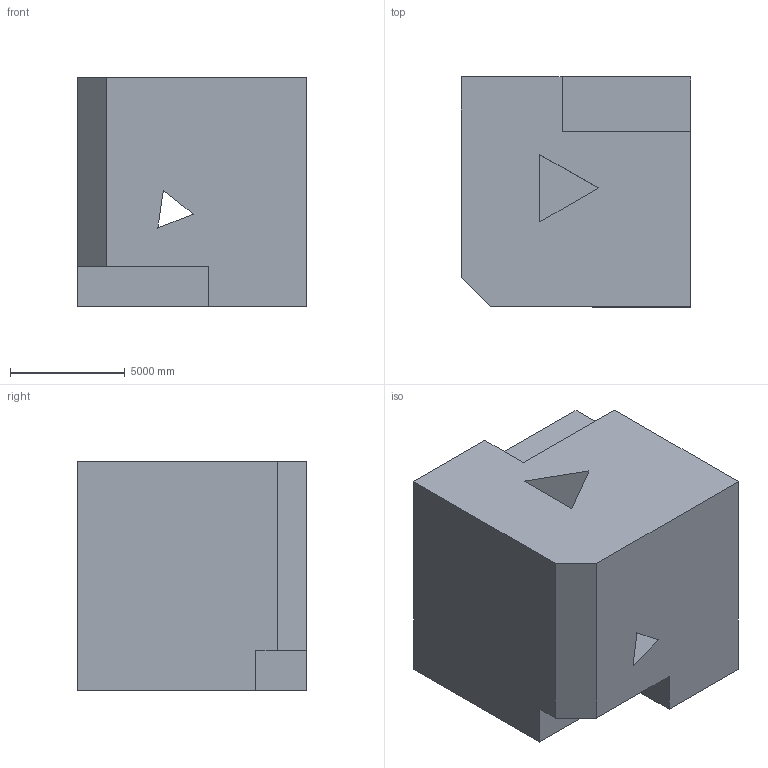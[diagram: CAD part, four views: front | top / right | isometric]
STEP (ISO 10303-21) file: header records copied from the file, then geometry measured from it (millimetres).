
FILE_DESCRIPTION (( 'STEP AP203' ), '1' );
FILE_NAME ('1407.STEP', '2022-08-18T14:17:40', ( 'user' ), ( '' ), 'SwSTEP 2.0', 'SolidWorks 2021', '' );
FILE_SCHEMA (( 'CONFIG_CONTROL_DESIGN' ));
Length unit declared in the file: centimetre
Products named in the file (1): 1407
Bounding box: 10000 x 10000 x 10000 mm (x, y, z)
Volume: 928788218818.8 mm3; surface area: 673047693.9 mm2
Topology: 1 solids, 1 shells, 20 faces, 51 edges, 34 vertices
Faces by surface type: plane 20
Entity records: 676 total; most frequent: CARTESIAN_POINT 106, ORIENTED_EDGE 102, DIRECTION 93, VECTOR 51, EDGE_CURVE 51, LINE 51, VERTEX_POINT 34, EDGE_LOOP 23
